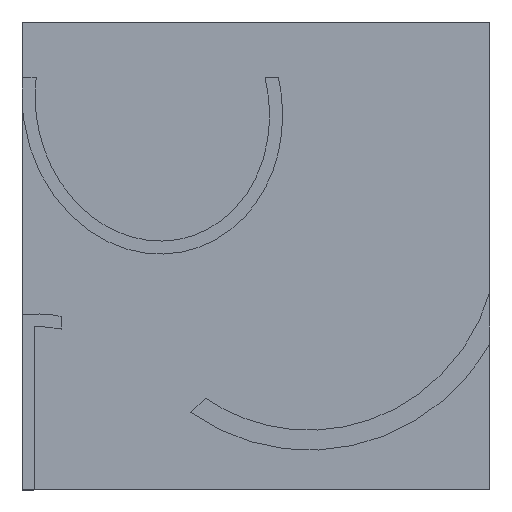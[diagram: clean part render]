
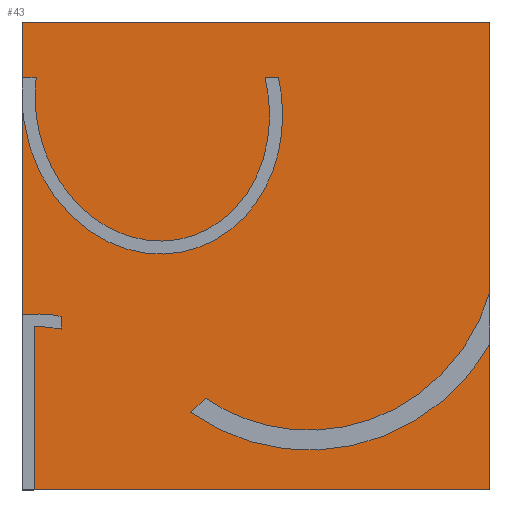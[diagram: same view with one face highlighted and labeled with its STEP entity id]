
A CAD part, top view. The second image highlights one B-rep face of the part: STEP entity #43.
In plain terms, the highlighted planar face has unit normal (0, 0, 1).
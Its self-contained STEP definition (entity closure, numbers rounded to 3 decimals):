
#43=ADVANCED_FACE('',(#72),#424,.T.);
#72=FACE_OUTER_BOUND('',#101,.T.);
#101=EDGE_LOOP('',(#209,#210,#211,#212));
#209=ORIENTED_EDGE('',*,*,#284,.T.);
#210=ORIENTED_EDGE('',*,*,#285,.T.);
#211=ORIENTED_EDGE('',*,*,#286,.T.);
#212=ORIENTED_EDGE('',*,*,#287,.T.);
#284=EDGE_CURVE('',#393,#394,#337,.T.);
#285=EDGE_CURVE('',#394,#395,#338,.T.);
#286=EDGE_CURVE('',#395,#396,#339,.T.);
#287=EDGE_CURVE('',#396,#393,#340,.T.);
#337=B_SPLINE_CURVE_WITH_KNOTS('',1,(#1031,#1032),.UNSPECIFIED.,.F.,.F.,
(2,2),(0.,2000.),.UNSPECIFIED.);
#338=B_SPLINE_CURVE_WITH_KNOTS('',1,(#1033,#1034),.UNSPECIFIED.,.F.,.F.,
(2,2),(0.,2000.),.UNSPECIFIED.);
#339=B_SPLINE_CURVE_WITH_KNOTS('',1,(#1035,#1036),.UNSPECIFIED.,.F.,.F.,
(2,2),(-2000.,0.),.UNSPECIFIED.);
#340=B_SPLINE_CURVE_WITH_KNOTS('',1,(#1037,#1038),.UNSPECIFIED.,.F.,.F.,
(2,2),(-2000.,0.),.UNSPECIFIED.);
#393=VERTEX_POINT('',#1023);
#394=VERTEX_POINT('',#1024);
#395=VERTEX_POINT('',#1025);
#396=VERTEX_POINT('',#1026);
#424=PLANE('',#533);
#533=AXIS2_PLACEMENT_3D('',#1017,#557,$);
#557=DIRECTION('',(0.,0.,1.));
#1017=CARTESIAN_POINT('',(2000.,2000.,0.));
#1023=CARTESIAN_POINT('',(2000.,2000.,0.));
#1024=CARTESIAN_POINT('',(0.,2000.,0.));
#1025=CARTESIAN_POINT('',(0.,0.,0.));
#1026=CARTESIAN_POINT('',(2000.,0.,0.));
#1031=CARTESIAN_POINT('',(2000.,2000.,0.));
#1032=CARTESIAN_POINT('',(0.,2000.,0.));
#1033=CARTESIAN_POINT('',(0.,2000.,0.));
#1034=CARTESIAN_POINT('',(0.,0.,0.));
#1035=CARTESIAN_POINT('',(0.,0.,0.));
#1036=CARTESIAN_POINT('',(2000.,0.,0.));
#1037=CARTESIAN_POINT('',(2000.,0.,0.));
#1038=CARTESIAN_POINT('',(2000.,2000.,0.));
